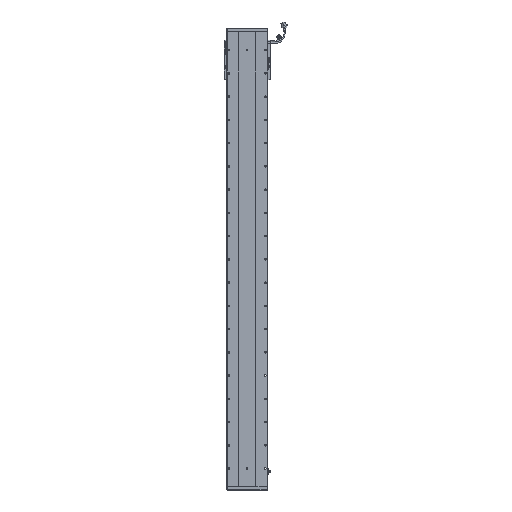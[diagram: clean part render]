
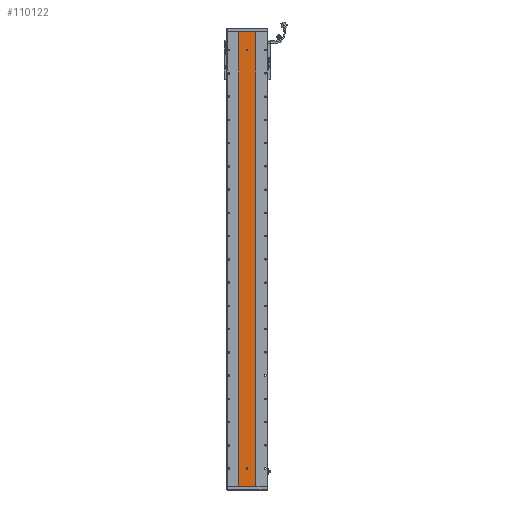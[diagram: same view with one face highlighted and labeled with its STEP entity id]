
A CAD part, front view. The second image highlights one B-rep face of the part: STEP entity #110122.
In plain terms, the highlighted planar face has unit normal (0, -1, 0).
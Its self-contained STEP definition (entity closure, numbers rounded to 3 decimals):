
#274 = CARTESIAN_POINT ( 'NONE',  ( 3280.529, 1415.701, 1878.5 ) ) ;
#639 = CIRCLE ( 'NONE', #41790, 3. ) ;
#1499 = EDGE_LOOP ( 'NONE', ( #78423, #32225 ) ) ;
#1621 = VERTEX_POINT ( 'NONE', #62955 ) ;
#4244 = ORIENTED_EDGE ( 'NONE', *, *, #75881, .F. ) ;
#4281 = AXIS2_PLACEMENT_3D ( 'NONE', #80025, #45834, #105602 ) ;
#5129 = LINE ( 'NONE', #59829, #85939 ) ;
#5509 = CARTESIAN_POINT ( 'NONE',  ( 3316.311, 1415.701, 0. ) ) ;
#5614 = CARTESIAN_POINT ( 'NONE',  ( 3316.311, 1415.701, 1957. ) ) ;
#5960 = LINE ( 'NONE', #61616, #69147 ) ;
#6414 = VERTEX_POINT ( 'NONE', #48489 ) ;
#6816 = VECTOR ( 'NONE', #14320, 1000. ) ;
#8459 = EDGE_CURVE ( 'NONE', #106368, #77181, #80603, .T. ) ;
#8615 = CARTESIAN_POINT ( 'NONE',  ( 3280.529, 1415.701, 80. ) ) ;
#8973 = LINE ( 'NONE', #93132, #41311 ) ;
#8985 = DIRECTION ( 'NONE',  ( 0., 0., -1. ) ) ;
#10633 = EDGE_CURVE ( 'NONE', #72492, #64976, #639, .T. ) ;
#13008 = CIRCLE ( 'NONE', #4281, 3. ) ;
#14320 = DIRECTION ( 'NONE',  ( 0., 0., 1. ) ) ;
#16681 = CARTESIAN_POINT ( 'NONE',  ( 3280.529, 1415.701, 1875.5 ) ) ;
#17827 = DIRECTION ( 'NONE',  ( 0., 0., -1. ) ) ;
#19767 = AXIS2_PLACEMENT_3D ( 'NONE', #274, #104157, #70691 ) ;
#21014 = DIRECTION ( 'NONE',  ( 0., 0., 1. ) ) ;
#21476 = ORIENTED_EDGE ( 'NONE', *, *, #74582, .F. ) ;
#21722 = CARTESIAN_POINT ( 'NONE',  ( 3277.529, 1415.701, 80. ) ) ;
#23791 = VERTEX_POINT ( 'NONE', #16681 ) ;
#24453 = CARTESIAN_POINT ( 'NONE',  ( 3316.311, 1415.701, 1957. ) ) ;
#26286 = FACE_BOUND ( 'NONE', #83073, .T. ) ;
#32225 = ORIENTED_EDGE ( 'NONE', *, *, #88635, .F. ) ;
#33224 = DIRECTION ( 'NONE',  ( 0., -1., 0. ) ) ;
#33860 = DIRECTION ( 'NONE',  ( 0., -1., 0. ) ) ;
#38670 = EDGE_CURVE ( 'NONE', #23791, #40245, #104840, .T. ) ;
#39023 = CIRCLE ( 'NONE', #19767, 3. ) ;
#40245 = VERTEX_POINT ( 'NONE', #44094 ) ;
#41311 = VECTOR ( 'NONE', #58600, 1000. ) ;
#41790 = AXIS2_PLACEMENT_3D ( 'NONE', #8615, #33860, #8985 ) ;
#42955 = ORIENTED_EDGE ( 'NONE', *, *, #109155, .F. ) ;
#43060 = CARTESIAN_POINT ( 'NONE',  ( 3280.529, 1415.701, 77. ) ) ;
#44094 = CARTESIAN_POINT ( 'NONE',  ( 3280.529, 1415.701, 1881.5 ) ) ;
#45834 = DIRECTION ( 'NONE',  ( 0., -1., 0. ) ) ;
#47735 = EDGE_LOOP ( 'NONE', ( #93141, #4244, #53806, #109350 ) ) ;
#48489 = CARTESIAN_POINT ( 'NONE',  ( 3244.748, 1415.701, 0. ) ) ;
#49492 = AXIS2_PLACEMENT_3D ( 'NONE', #51339, #33224, #84427 ) ;
#51339 = CARTESIAN_POINT ( 'NONE',  ( 3280.529, 1415.701, 1878.5 ) ) ;
#52610 = DIRECTION ( 'NONE',  ( 0., 0., -1. ) ) ;
#53806 = ORIENTED_EDGE ( 'NONE', *, *, #73778, .F. ) ;
#54587 = VECTOR ( 'NONE', #68141, 1000. ) ;
#56204 = EDGE_CURVE ( 'NONE', #77181, #72492, #68862, .T. ) ;
#56424 = DIRECTION ( 'NONE',  ( 1., 0., 0. ) ) ;
#57250 = EDGE_CURVE ( 'NONE', #6414, #89018, #94183, .T. ) ;
#57989 = VECTOR ( 'NONE', #56424, 1000. ) ;
#58600 = DIRECTION ( 'NONE',  ( 0., 0., -1. ) ) ;
#59829 = CARTESIAN_POINT ( 'NONE',  ( 3244.748, 1415.701, 1957. ) ) ;
#61616 = CARTESIAN_POINT ( 'NONE',  ( 3244.748, 1415.701, 1957. ) ) ;
#62955 = CARTESIAN_POINT ( 'NONE',  ( 3244.748, 1415.701, 1957. ) ) ;
#64976 = VERTEX_POINT ( 'NONE', #21722 ) ;
#65951 = CARTESIAN_POINT ( 'NONE',  ( 3283.529, 1415.701, 80. ) ) ;
#67082 = ORIENTED_EDGE ( 'NONE', *, *, #8459, .F. ) ;
#67406 = CARTESIAN_POINT ( 'NONE',  ( 3280.529, 1415.701, 74. ) ) ;
#68141 = DIRECTION ( 'NONE',  ( 0., 0., -1. ) ) ;
#68862 = LINE ( 'NONE', #65951, #6816 ) ;
#69147 = VECTOR ( 'NONE', #52610, 1000. ) ;
#70691 = DIRECTION ( 'NONE',  ( 0., 0., -1. ) ) ;
#71284 = VERTEX_POINT ( 'NONE', #106228 ) ;
#72255 = CARTESIAN_POINT ( 'NONE',  ( 3244.748, 1415.701, 1957. ) ) ;
#72492 = VERTEX_POINT ( 'NONE', #73194 ) ;
#73194 = CARTESIAN_POINT ( 'NONE',  ( 3283.529, 1415.701, 80. ) ) ;
#73778 = EDGE_CURVE ( 'NONE', #1621, #96972, #5129, .T. ) ;
#73968 = ORIENTED_EDGE ( 'NONE', *, *, #10633, .F. ) ;
#74582 = EDGE_CURVE ( 'NONE', #71284, #106368, #13008, .T. ) ;
#75881 = EDGE_CURVE ( 'NONE', #96972, #89018, #84241, .T. ) ;
#77181 = VERTEX_POINT ( 'NONE', #95103 ) ;
#78423 = ORIENTED_EDGE ( 'NONE', *, *, #38670, .F. ) ;
#80025 = CARTESIAN_POINT ( 'NONE',  ( 3280.529, 1415.701, 77. ) ) ;
#80504 = PLANE ( 'NONE',  #107802 ) ;
#80603 = CIRCLE ( 'NONE', #111482, 3. ) ;
#83073 = EDGE_LOOP ( 'NONE', ( #21476, #42955, #73968, #89293, #67082 ) ) ;
#84241 = LINE ( 'NONE', #24453, #54587 ) ;
#84427 = DIRECTION ( 'NONE',  ( 0., 0., -1. ) ) ;
#85939 = VECTOR ( 'NONE', #101892, 1000. ) ;
#85976 = DIRECTION ( 'NONE',  ( 0., -1., 0. ) ) ;
#86854 = FACE_OUTER_BOUND ( 'NONE', #47735, .T. ) ;
#88635 = EDGE_CURVE ( 'NONE', #40245, #23791, #39023, .T. ) ;
#89018 = VERTEX_POINT ( 'NONE', #5509 ) ;
#89293 = ORIENTED_EDGE ( 'NONE', *, *, #56204, .F. ) ;
#93132 = CARTESIAN_POINT ( 'NONE',  ( 3277.529, 1415.701, 80. ) ) ;
#93141 = ORIENTED_EDGE ( 'NONE', *, *, #57250, .T. ) ;
#94183 = LINE ( 'NONE', #107880, #57989 ) ;
#95103 = CARTESIAN_POINT ( 'NONE',  ( 3283.529, 1415.701, 77. ) ) ;
#96972 = VERTEX_POINT ( 'NONE', #5614 ) ;
#101892 = DIRECTION ( 'NONE',  ( 1., 0., 0. ) ) ;
#103625 = EDGE_CURVE ( 'NONE', #1621, #6414, #5960, .T. ) ;
#104157 = DIRECTION ( 'NONE',  ( 0., -1., 0. ) ) ;
#104840 = CIRCLE ( 'NONE', #49492, 3. ) ;
#105602 = DIRECTION ( 'NONE',  ( 0., 0., -1. ) ) ;
#106228 = CARTESIAN_POINT ( 'NONE',  ( 3277.529, 1415.701, 77. ) ) ;
#106368 = VERTEX_POINT ( 'NONE', #67406 ) ;
#106831 = DIRECTION ( 'NONE',  ( 0., 1., 0. ) ) ;
#107802 = AXIS2_PLACEMENT_3D ( 'NONE', #72255, #106831, #21014 ) ;
#107880 = CARTESIAN_POINT ( 'NONE',  ( 3244.748, 1415.701, 0. ) ) ;
#109155 = EDGE_CURVE ( 'NONE', #64976, #71284, #8973, .T. ) ;
#109350 = ORIENTED_EDGE ( 'NONE', *, *, #103625, .T. ) ;
#109754 = FACE_BOUND ( 'NONE', #1499, .T. ) ;
#110122 = ADVANCED_FACE ( 'NONE', ( #26286, #109754, #86854 ), #80504, .F. ) ;
#111482 = AXIS2_PLACEMENT_3D ( 'NONE', #43060, #85976, #17827 ) ;
